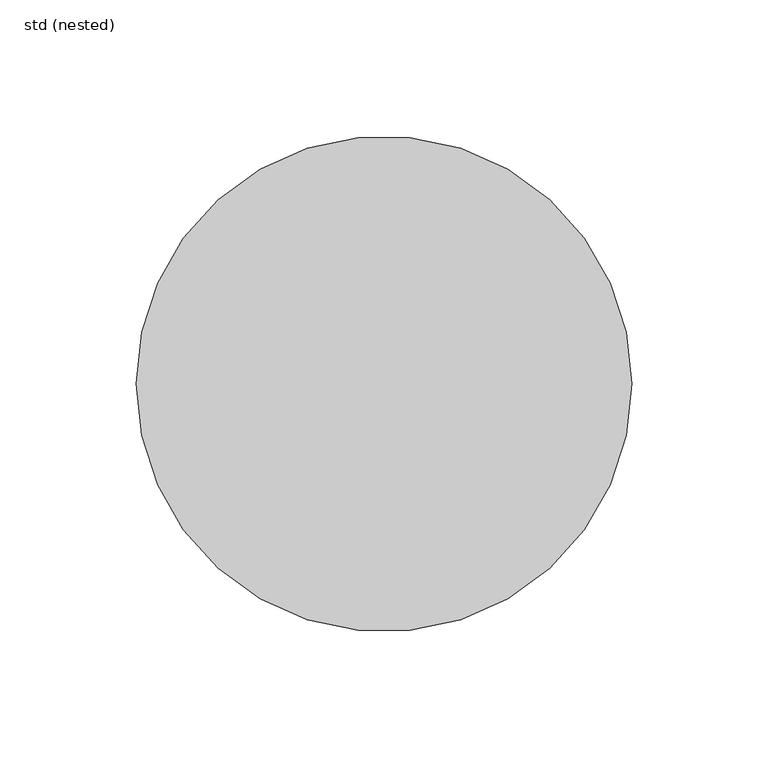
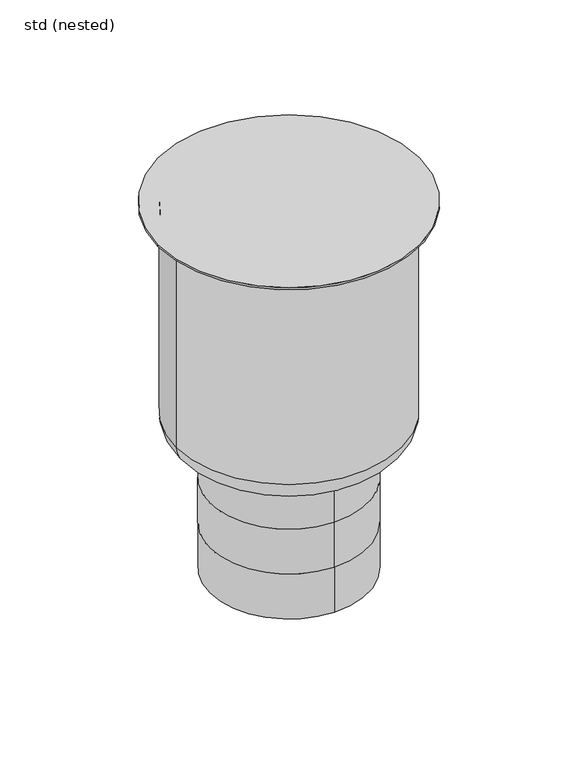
"""IFC4 building model written with IfcOpenShell, lengths in millimetres: sanitary terminal geometry, ZZZ_do not use_PF_ST_UN_telescopic hygienic gully_ACO : std (nested)."""

from ifc_helpers import new_model, si_unit, point, frame, origin, origin_with_axes, place, context, project, spatial, circle_curve, ellipse_curve, trimmed, source, transform, mapped, element, save
from ifc_brep_helpers import plane_surface, cylinder_surface, revolved_surface, advanced_brep


def std_nested_d5818558(model_context):
    return source(origin(), model_context, "Body", "AdvancedBrep", [
        advanced_brep(
        [(0.0, -55.0, -269.0), (0.0, 55.0, -269.0), (0.0, -55.0, -236.0), (0.0, 55.0, -236.0), (0.0, -55.0, -203.0), (0.0, 55.0, -203.0), (0.0, 55.0, -170.0), (55.0, 0.0, -170.0), (0.0, -55.0, -170.0), (-55.0, 0.0, -170.0), (78.5, 0.0, -153.5), (-78.5, 0.0, -153.5), (-78.5, 0.0, -1.5), (78.5, 0.0, -1.5), (62.0, 0.0, -170.0), (-62.0, 0.0, -170.0), (-91.0, 0.0, -1.5), (91.0, 0.0, -1.5), (-91.0, 0.0, 0.0), (91.0, 0.0, 0.0)],
        [
            (0, 1, circle_curve(frame((0.0, 0.0, -269.0), z_axis=(0.0, 0.0, -1.0), x_axis=(0.0, 1.0, 0.0)), 55.0)),
            (1, 0, circle_curve(frame((0.0, 0.0, -269.0), z_axis=(0.0, 0.0, -1.0), x_axis=(0.0, 1.0, 0.0)), 55.0)),
            (0, 2),
            (2, 3, circle_curve(frame((0.0, 0.0, -236.0), z_axis=(0.0, 0.0, -1.0), x_axis=(0.0, 1.0, 0.0)), 55.0)),
            (3, 1),
            (3, 2, circle_curve(frame((0.0, 0.0, -236.0), z_axis=(0.0, 0.0, -1.0), x_axis=(0.0, 1.0, 0.0)), 55.0)),
            (4, 2),
            (3, 5),
            (5, 4, circle_curve(frame((0.0, 0.0, -203.0), z_axis=(0.0, 0.0, -1.0), x_axis=(1.0, 0.0, 0.0)), 55.0)),
            (4, 5, circle_curve(frame((0.0, 0.0, -203.0), z_axis=(0.0, 0.0, -1.0), x_axis=(-1.0, 0.0, 0.0)), 55.0)),
            (5, 6),
            (6, 7, circle_curve(frame((0.0, 0.0, -170.0), z_axis=(0.0, 0.0, -1.0), x_axis=(0.0, 1.0, 0.0)), 55.0)),
            (7, 8, circle_curve(frame((0.0, 0.0, -170.0), z_axis=(0.0, 0.0, -1.0), x_axis=(0.0, 1.0, 0.0)), 55.0)),
            (8, 4),
            (8, 9, circle_curve(frame((0.0, 0.0, -170.0), z_axis=(0.0, 0.0, -1.0), x_axis=(0.0, 1.0, 0.0)), 55.0)),
            (9, 6, circle_curve(frame((0.0, 0.0, -170.0), z_axis=(0.0, 0.0, -1.0), x_axis=(0.0, 1.0, 0.0)), 55.0)),
            (10, 11, circle_curve(frame((0.0, 0.0, -153.5), z_axis=(0.0, 0.0, 1.0), x_axis=(-1.0, 0.0, 0.0)), 78.5)),
            (11, 12),
            (12, 13, circle_curve(frame((0.0, 0.0, -1.5), z_axis=(0.0, 0.0, -1.0), x_axis=(-1.0, 0.0, 0.0)), 78.5)),
            (13, 10),
            (11, 10, circle_curve(frame((0.0, 0.0, -153.5), z_axis=(0.0, 0.0, 1.0), x_axis=(-1.0, 0.0, 0.0)), 78.5)),
            (13, 12, circle_curve(frame((0.0, 0.0, -1.5), z_axis=(0.0, 0.0, -1.0), x_axis=(-1.0, 0.0, 0.0)), 78.5)),
            (10, 14, circle_curve(frame((62.0, 0.0, -153.5), z_axis=(0.0, 1.0, 0.0), x_axis=(-1.0, 0.0, 0.0)), 16.5)),
            (14, 15, circle_curve(frame((0.0, 0.0, -170.0), z_axis=(0.0, 0.0, 1.0), x_axis=(-1.0, 0.0, 0.0)), 62.0)),
            (15, 11, circle_curve(frame((-62.0, 0.0, -153.5), z_axis=(0.0, 1.0, 0.0), x_axis=(1.0, 0.0, 0.0)), 16.5)),
            (15, 14, circle_curve(frame((0.0, 0.0, -170.0), z_axis=(0.0, 0.0, 1.0), x_axis=(-1.0, 0.0, 0.0)), 62.0)),
            (14, 7),
            (9, 15),
            (16, 17, circle_curve(frame((0.0, 0.0, -1.5), z_axis=(0.0, 0.0, -1.0), x_axis=(1.0, 0.0, 0.0)), 91.0)),
            (17, 16, circle_curve(frame((0.0, 0.0, -1.5), z_axis=(0.0, 0.0, -1.0), x_axis=(1.0, 0.0, 0.0)), 91.0)),
            (18, 19, circle_curve(origin_with_axes(), 91.0)),
            (19, 18, circle_curve(origin_with_axes(), 91.0)),
            (17, 19),
            (18, 16),
        ],
        [
            plane_surface(frame((0.0, 55.0, -269.0), z_axis=(0.0, 0.0, -1.0), x_axis=(1.0, 0.0, 0.0))),
            cylinder_surface(frame((0.0, 0.0, -236.0), z_axis=(0.0, 0.0, -1.0), x_axis=(0.0, 1.0, 0.0)), 55.0),
            cylinder_surface(frame((0.0, 0.0, -203.0), z_axis=(0.0, 0.0, -1.0), x_axis=(1.0, 0.0, 0.0)), 55.0),
            cylinder_surface(frame((0.0, 0.0, -203.0), z_axis=(0.0, 0.0, -1.0), x_axis=(-1.0, 0.0, 0.0)), 55.0),
            cylinder_surface(frame((0.0, 0.0, -170.0), z_axis=(0.0, 0.0, -1.0), x_axis=(0.0, 1.0, 0.0)), 55.0),
            cylinder_surface(frame((0.0, 0.0, 60.0), z_axis=(0.0, 0.0, -1.0), x_axis=(-1.0, 0.0, 0.0)), 78.5),
            revolved_surface(trimmed(ellipse_curve(frame((-62.0, 0.0, -153.5), z_axis=(0.0, -1.0, 0.0), x_axis=(1.0, 0.0, 0.0)), 16.5, 16.5), [point((-78.5, 0.0, -153.5))], [point((-62.0, 0.0, -170.0))], True, "CARTESIAN"), (0.0, 0.0, 60.0), (0.0, 0.0, -1.0)),
            plane_surface(frame((0.0, 0.0, -170.0), z_axis=(0.0, 0.0, -1.0), x_axis=(-1.0, 0.0, 0.0))),
            plane_surface(frame((91.0, 0.0, -1.5), z_axis=(0.0, 0.0, -1.0), x_axis=(0.0, -1.0, 0.0))),
            plane_surface(frame((91.0, 0.0, 0.0), z_axis=(0.0, 0.0, 1.0), x_axis=(0.0, 1.0, 0.0))),
            cylinder_surface(frame((0.0, 0.0, -1.5), z_axis=(0.0, 0.0, 1.0), x_axis=(1.0, 0.0, 0.0)), 91.0),
        ],
        [
            (0, [[1, 2]]),
            (1, [[-1, 3, 4, 5]]),
            (1, [[-2, -5, 6, -3]]),
            (2, [[7, -6, 8, 9]]),
            (3, [[-7, 10, -8, -4]]),
            (4, [[11, 12, 13, 14, -9]]),
            (4, [[-11, -10, -14, 15, 16]]),
            (5, [[17, 18, 19, 20]]),
            (5, [[-18, 21, -20, 22]]),
            (6, [[-17, 23, 24, 25]]),
            (6, [[-21, -25, 26, -23]]),
            (7, [[-24, 27, -12, -16, 28]]),
            (7, [[-26, -28, -15, -13, -27]]),
            (8, [[29, 30], [-19, -22]]),
            (9, [[31, 32]]),
            (10, [[-30, 33, -31, 34]]),
            (10, [[-29, -34, -32, -33]]),
        ],
    ),
    ])


if __name__ == "__main__":
    model = new_model("IFC4")
    model_context = context("Model", 3, world=origin())
    ifc_project = project(units=[si_unit("LENGTHUNIT", "METRE", prefix="MILLI")], contexts=[model_context])
    site = spatial("IfcSite", under=ifc_project)
    building = spatial("IfcBuilding", under=site)
    placement = place(None, origin())
    std_nested_shape = std_nested_d5818558(model_context)
    element("IfcSanitaryTerminal", 1, ObjectType="ZZZ_do not use_PF_ST_UN_telescopic hygienic gully_ACO : std (nested)", at=placement, inside=building, context=model_context, shape_type="MappedRepresentation", body=[
        mapped(std_nested_shape, transform((0.0, 0.0, 0.0), x_axis=(1.0, 0.0, 0.0), y_axis=(0.0, 1.0, 0.0), z_axis=(0.0, 0.0, 1.0))),
    ])
    save(model, "model.ifc")
